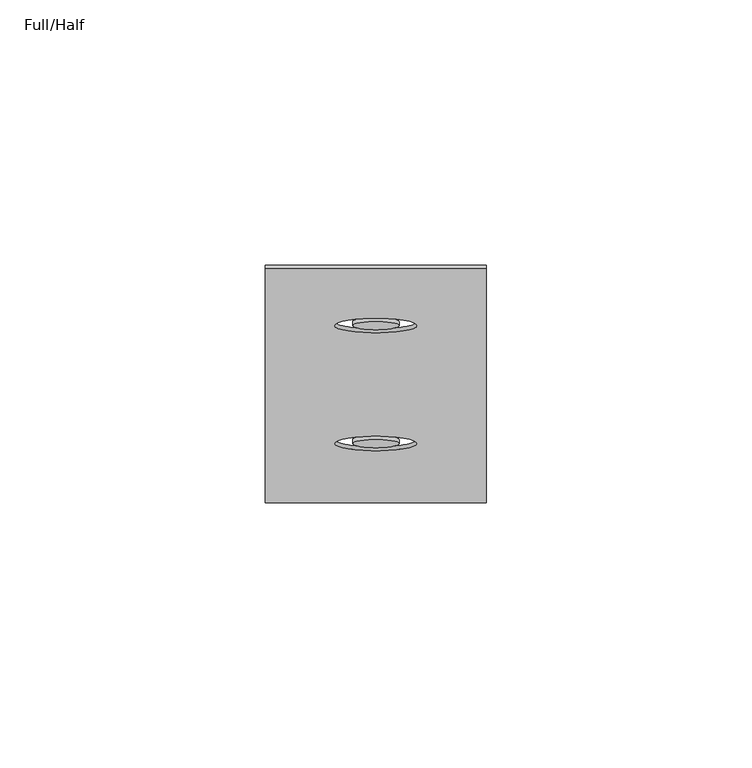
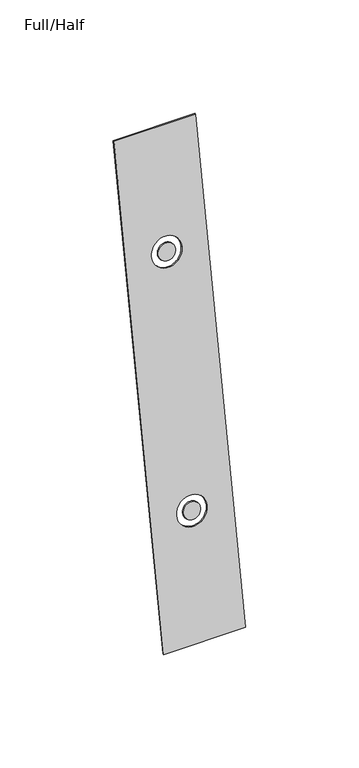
"""IFC4 building model written with IfcOpenShell, lengths in millimetres: furniture geometry, Steelcase Turnstone - Bivi - Table - Leg Cover : Full/Half."""

from ifc_helpers import new_model, si_unit, point, frame, frame_2d, origin, place, context, project, spatial, polyline, circle_curve, trimmed, segment, composite_curve, outline, extrude, source, transform, mapped, element, save


def full_half_8ba35e3a(model_context):
    return source(origin(), model_context, "Body", "SweptSolid", [
        extrude(outline(polyline([(41.7834961, 0.0), (41.7834961, -253.9999999), (0.0, -253.9999999), (0.0, 0.0), (41.7834961, 0.0)]), holes=[composite_curve([segment(trimmed(circle_curve(frame_2d((20.8958691, -61.4696537)), 7.7534661), [point((13.142403, -61.4696537))], [point((28.6493353, -61.4696537))], True, "CARTESIAN"), True, "CONTINUOUS"), segment(trimmed(circle_curve(frame_2d((20.8958691, -61.4696537)), 7.7534661), [point((28.6493353, -61.4696537))], [point((13.142403, -61.4696537))], True, "CARTESIAN"), True, "CONTINUOUS")], self_intersect=False), composite_curve([segment(trimmed(circle_curve(frame_2d((20.8958905, -189.4960628)), 7.7534661), [point((13.1424244, -189.4960628))], [point((28.6493566, -189.4960628))], True, "CARTESIAN"), True, "CONTINUOUS"), segment(trimmed(circle_curve(frame_2d((20.8958905, -189.4960628)), 7.7534661), [point((28.6493566, -189.4960628))], [point((13.1424244, -189.4960628))], True, "CARTESIAN"), True, "CONTINUOUS")], self_intersect=False)]), frame((3.6659394, 111.8826558, 460.0282657), z_axis=(0.0, -0.9848113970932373, 0.17362750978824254), x_axis=(1.0, 0.0, 0.0)), (0.0, 0.0, 1.0), 0.7594233),
        extrude(outline(composite_curve([segment(trimmed(circle_curve(frame_2d((20.8958691, -61.4696537)), 4.3853305), [point((16.5105386, -61.4696537))], [point((25.2811997, -61.4696537))], False, "CARTESIAN"), True, "CONTINUOUS"), segment(trimmed(circle_curve(frame_2d((20.8958691, -61.4696537)), 4.3853305), [point((25.2811997, -61.4696537))], [point((16.5105386, -61.4696537))], False, "CARTESIAN"), True, "CONTINUOUS")], self_intersect=False)), frame((3.6659394, 111.8826558, 460.0282657), z_axis=(0.0, -0.9848113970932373, 0.17362750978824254), x_axis=(1.0, 0.0, 0.0)), (0.0, 0.0, 1.0), 0.7594233),
        extrude(outline(composite_curve([segment(trimmed(circle_curve(frame_2d((20.8958905, -189.4960628)), 4.3853305), [point((16.51056, -189.4960628))], [point((25.281221, -189.4960628))], False, "CARTESIAN"), True, "CONTINUOUS"), segment(trimmed(circle_curve(frame_2d((20.8958905, -189.4960628)), 4.3853305), [point((25.281221, -189.4960628))], [point((16.51056, -189.4960628))], False, "CARTESIAN"), True, "CONTINUOUS")], self_intersect=False)), frame((3.6659394, 111.8826558, 460.0282657), z_axis=(0.0, -0.9848113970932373, 0.17362750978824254), x_axis=(1.0, 0.0, 0.0)), (0.0, 0.0, 1.0), 0.7594233),
    ])


if __name__ == "__main__":
    model = new_model("IFC4")
    model_context = context("Model", 3, world=origin())
    ifc_project = project(units=[si_unit("LENGTHUNIT", "METRE", prefix="MILLI")], contexts=[model_context])
    site = spatial("IfcSite", under=ifc_project)
    building = spatial("IfcBuilding", under=site)
    placement = place(None, origin())
    full_half_shape = full_half_8ba35e3a(model_context)
    element("IfcFurniture", 1, ObjectType="Steelcase Turnstone - Bivi - Table - Leg Cover : Full/Half", at=placement, inside=building, context=model_context, shape_type="MappedRepresentation", body=[
        mapped(full_half_shape, transform((0.0, 0.0, 0.0), x_axis=(1.0, 0.0, 0.0), y_axis=(0.0, 1.0, 0.0), z_axis=(0.0, 0.0, 1.0))),
    ])
    save(model, "model.ifc")
